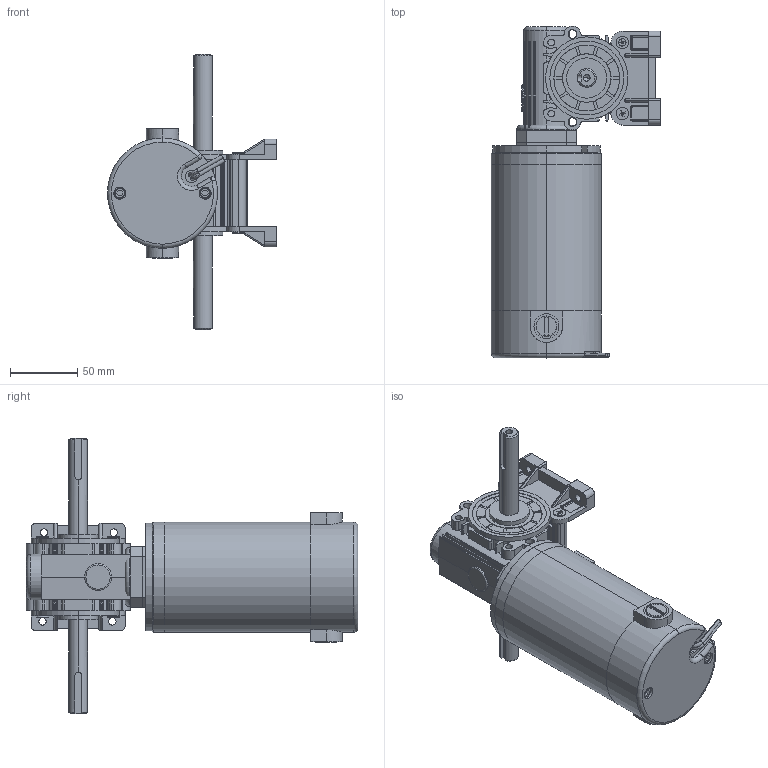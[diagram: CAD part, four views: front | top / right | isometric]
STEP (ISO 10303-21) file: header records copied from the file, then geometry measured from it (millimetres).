
FILE_DESCRIPTION (( 'STEP AP214' ), '1' );
FILE_NAME ('WG7165-2017皑笷搭硉诀舱ン.STEP', '2017-06-13T06:20:17', ( 'Sky123.Org' ), ( 'Sky123.Org' ), 'SwSTEP 2.0', 'SolidWorks 2015', '' );
FILE_SCHEMA (( 'AUTOMOTIVE_DESIGN' ));
Length unit declared in the file: millimetre
Products named in the file (6): 齒輪箱外型組合; WG7165-2017馬達減速機組合件; cross recessed countersunk head screw_jis_JIS 1111 Cross recessed countersunk head screw - M5 x 12 - Z --12N; 傳動軸1; 齒輪箱固定架; 馬達M7152-1
Assembly tree (9 placements, depth 2):
  WG7165-2017馬達減速機組合件
    齒輪箱外型組合
    馬達M7152-1
    齒輪箱固定架  x2
    傳動軸1
    cross recessed countersunk head screw_jis_JIS 1111 Cross recessed countersunk head screw - M5 x 12 - Z --12N  x4
Bounding box: 126.03 x 247.11 x 205 mm (x, y, z)
Volume: 1044501.8 mm3; surface area: 207053.6 mm2
Topology: 39 solids, 39 shells, 992 faces, 2537 edges, 1632 vertices
Faces by surface type: plane 463, cylinder 425, cone 58, torus 39, sphere 7
Entity records: 33282 total; most frequent: CARTESIAN_POINT 5936, DIRECTION 4389, ORIENTED_EDGE 4194, EDGE_CURVE 2097, AXIS2_PLACEMENT_3D 1625, VERTEX_POINT 1374, VECTOR 1139, LINE 1139
